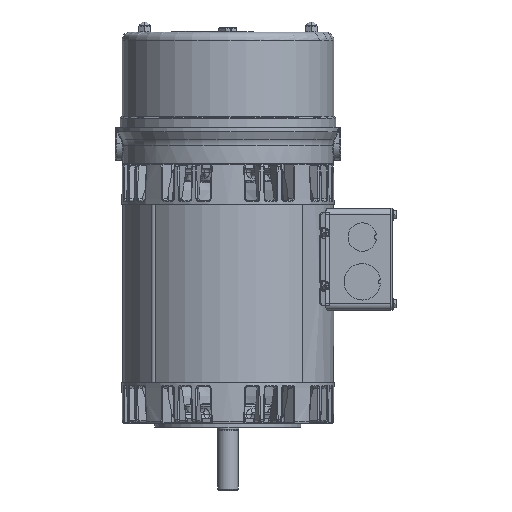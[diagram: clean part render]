
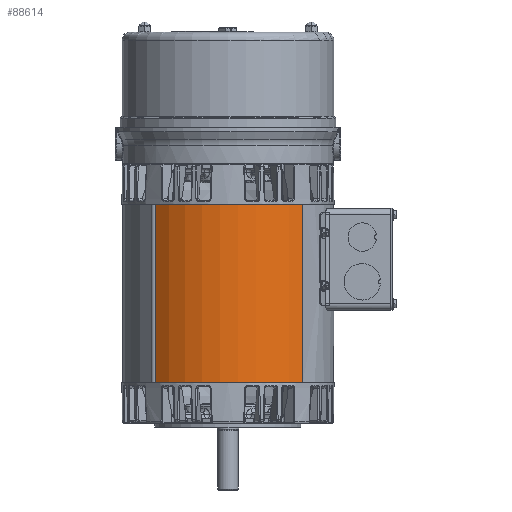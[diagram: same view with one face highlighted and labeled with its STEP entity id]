
A CAD part, front view. The second image highlights one B-rep face of the part: STEP entity #88614.
In plain terms, the highlighted cylindrical face has radius 82.868 mm (diameter 165.735 mm), a partial arc.
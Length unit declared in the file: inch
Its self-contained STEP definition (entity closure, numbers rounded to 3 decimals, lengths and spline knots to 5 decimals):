
#330 = CARTESIAN_POINT ( 'NONE',  ( -2.24242, -2.3697, 3.31006 ) ) ;
#6175 = DIRECTION ( 'NONE',  ( 0.707, -0.707, 0. ) ) ;
#16377 = DIRECTION ( 'NONE',  ( 0., 0., 1. ) ) ;
#17644 = LINE ( 'NONE', #98565, #151110 ) ;
#19422 = ORIENTED_EDGE ( 'NONE', *, *, #33066, .T. ) ;
#30044 = DIRECTION ( 'NONE',  ( 0., 0., 1. ) ) ;
#33066 = EDGE_CURVE ( 'NONE', #166562, #120966, #48644, .T. ) ;
#34892 = EDGE_CURVE ( 'NONE', #120966, #166164, #148433, .T. ) ;
#37753 = VECTOR ( 'NONE', #16377, 39.37008 ) ;
#39756 = AXIS2_PLACEMENT_3D ( 'NONE', #139157, #153144, #6175 ) ;
#43145 = CARTESIAN_POINT ( 'NONE',  ( 2.30694, -2.30694, 3.31006 ) ) ;
#48644 = CIRCLE ( 'NONE', #138675, 3.2625 ) ;
#49899 = ORIENTED_EDGE ( 'NONE', *, *, #140076, .F. ) ;
#58426 = CYLINDRICAL_SURFACE ( 'NONE', #39756, 3.2625 ) ;
#58963 = CARTESIAN_POINT ( 'NONE',  ( 2.30694, -2.30694, 8.81006 ) ) ;
#73966 = DIRECTION ( 'NONE',  ( 0., 0., 1. ) ) ;
#88614 = ADVANCED_FACE ( 'NONE', ( #98082 ), #58426, .T. ) ;
#90657 = EDGE_CURVE ( 'NONE', #166562, #95746, #17644, .T. ) ;
#95746 = VERTEX_POINT ( 'NONE', #162163 ) ;
#98082 = FACE_OUTER_BOUND ( 'NONE', #135857, .T. ) ;
#98565 = CARTESIAN_POINT ( 'NONE',  ( -2.24242, -2.3697, 3.31006 ) ) ;
#101028 = ORIENTED_EDGE ( 'NONE', *, *, #34892, .T. ) ;
#109350 = ORIENTED_EDGE ( 'NONE', *, *, #90657, .F. ) ;
#109844 = CARTESIAN_POINT ( 'NONE',  ( 0., 0., 8.81006 ) ) ;
#111589 = AXIS2_PLACEMENT_3D ( 'NONE', #109844, #30044, #123372 ) ;
#120966 = VERTEX_POINT ( 'NONE', #131351 ) ;
#123372 = DIRECTION ( 'NONE',  ( 0.707, -0.707, 0. ) ) ;
#131351 = CARTESIAN_POINT ( 'NONE',  ( 2.30694, -2.30694, 3.31006 ) ) ;
#135857 = EDGE_LOOP ( 'NONE', ( #19422, #101028, #49899, #109350 ) ) ;
#137736 = CIRCLE ( 'NONE', #111589, 3.2625 ) ;
#138675 = AXIS2_PLACEMENT_3D ( 'NONE', #153947, #73966, #167324 ) ;
#139157 = CARTESIAN_POINT ( 'NONE',  ( 0., 0., 3.31006 ) ) ;
#140076 = EDGE_CURVE ( 'NONE', #95746, #166164, #137736, .T. ) ;
#148433 = LINE ( 'NONE', #43145, #37753 ) ;
#151110 = VECTOR ( 'NONE', #165087, 39.37008 ) ;
#153144 = DIRECTION ( 'NONE',  ( 0., 0., 1. ) ) ;
#153947 = CARTESIAN_POINT ( 'NONE',  ( 0., 0., 3.31006 ) ) ;
#162163 = CARTESIAN_POINT ( 'NONE',  ( -2.24242, -2.3697, 8.81006 ) ) ;
#165087 = DIRECTION ( 'NONE',  ( 0., 0., 1. ) ) ;
#166164 = VERTEX_POINT ( 'NONE', #58963 ) ;
#166562 = VERTEX_POINT ( 'NONE', #330 ) ;
#167324 = DIRECTION ( 'NONE',  ( 0.707, -0.707, 0. ) ) ;
